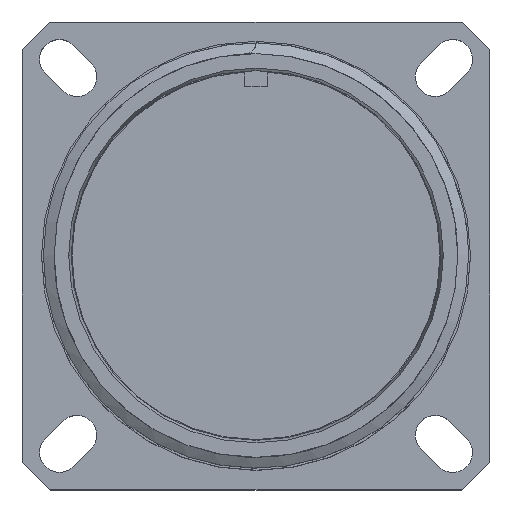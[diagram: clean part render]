
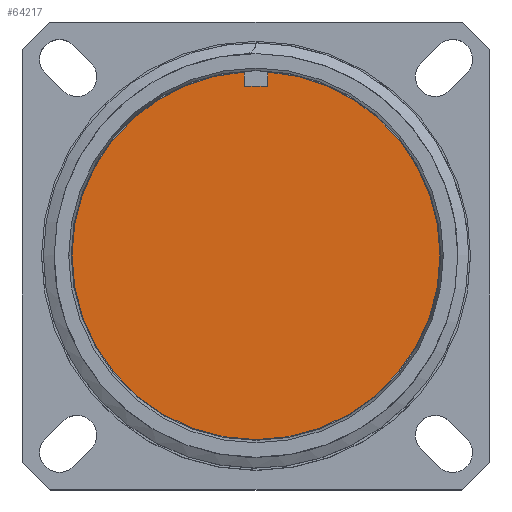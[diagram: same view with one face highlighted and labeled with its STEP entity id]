
A CAD part, top view. The second image highlights one B-rep face of the part: STEP entity #64217.
In plain terms, the highlighted planar face has unit normal (0, 0, 1).
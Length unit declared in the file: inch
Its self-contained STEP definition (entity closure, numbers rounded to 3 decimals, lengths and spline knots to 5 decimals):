
#5914 = CARTESIAN_POINT ( 'NONE',  ( 0., 0.5925, -0.563 ) ) ;
#6986 = PLANE ( 'NONE',  #70304 ) ;
#12520 = DIRECTION ( 'NONE',  ( 0., 0., 1. ) ) ;
#13033 = CARTESIAN_POINT ( 'NONE',  ( 0., 0., -0.563 ) ) ;
#20416 = VERTEX_POINT ( 'NONE', #86669 ) ;
#21953 = DIRECTION ( 'NONE',  ( 1., 0., 0. ) ) ;
#28852 = AXIS2_PLACEMENT_3D ( 'NONE', #79444, #70829, #21953 ) ;
#30199 = ORIENTED_EDGE ( 'NONE', *, *, #33145, .T. ) ;
#31219 = EDGE_CURVE ( 'NONE', #87006, #20416, #71690, .T. ) ;
#33145 = EDGE_CURVE ( 'NONE', #20416, #87006, #85465, .T. ) ;
#39857 = CARTESIAN_POINT ( 'NONE',  ( 0.5925, 0., -0.563 ) ) ;
#54411 = DIRECTION ( 'NONE',  ( 1., 0., 0. ) ) ;
#64217 = ADVANCED_FACE ( 'NONE', ( #87618 ), #6986, .F. ) ;
#68472 = ORIENTED_EDGE ( 'NONE', *, *, #31219, .T. ) ;
#70304 = AXIS2_PLACEMENT_3D ( 'NONE', #5914, #105875, #79548 ) ;
#70829 = DIRECTION ( 'NONE',  ( 0., 0., 1. ) ) ;
#70858 = EDGE_LOOP ( 'NONE', ( #68472, #30199 ) ) ;
#71690 = CIRCLE ( 'NONE', #97523, 0.5925 ) ;
#79444 = CARTESIAN_POINT ( 'NONE',  ( 0., 0., -0.563 ) ) ;
#79548 = DIRECTION ( 'NONE',  ( -1., 0., 0. ) ) ;
#85465 = CIRCLE ( 'NONE', #28852, 0.5925 ) ;
#86669 = CARTESIAN_POINT ( 'NONE',  ( -0.5925, 0., -0.563 ) ) ;
#87006 = VERTEX_POINT ( 'NONE', #39857 ) ;
#87618 = FACE_OUTER_BOUND ( 'NONE', #70858, .T. ) ;
#97523 = AXIS2_PLACEMENT_3D ( 'NONE', #13033, #12520, #54411 ) ;
#105875 = DIRECTION ( 'NONE',  ( 0., 0., -1. ) ) ;
